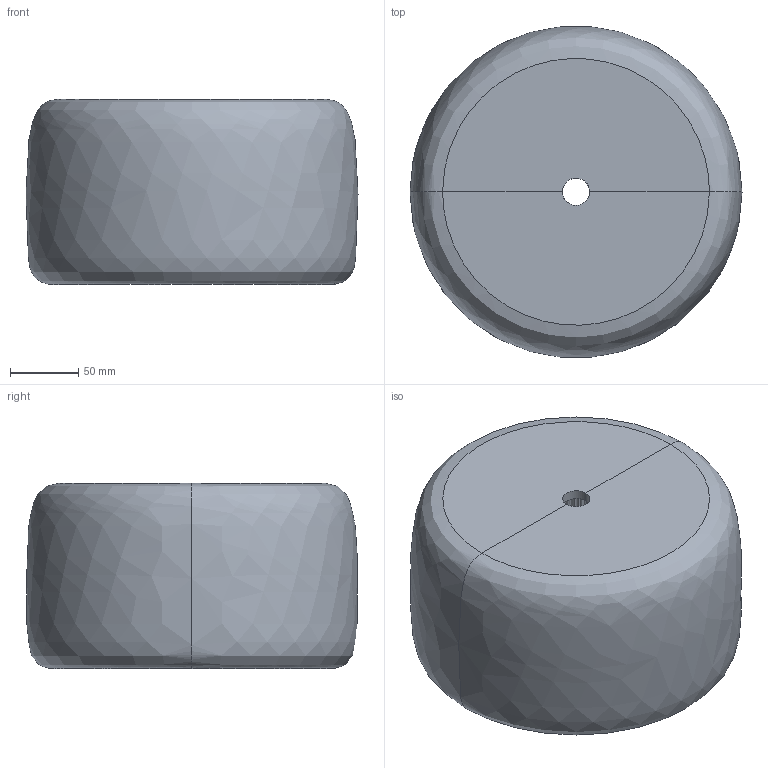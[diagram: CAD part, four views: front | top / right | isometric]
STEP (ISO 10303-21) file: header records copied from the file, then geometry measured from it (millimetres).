
FILE_DESCRIPTION (( 'STEP AP214' ), '1' );
FILE_NAME ('Ises_shade.STEP', '2026-05-29T13:04:42', ( '' ), ( '' ), 'SwSTEP 2.0', 'SolidWorks 2023', '' );
FILE_SCHEMA (( 'AUTOMOTIVE_DESIGN' ));
Length unit declared in the file: millimetre
Products named in the file (3): Manises Sobremesa63.igs; Ises_shade; Manises Sobremesa.igs
Assembly tree (2 placements, depth 3):
  Ises_shade
    Manises Sobremesa.igs
      Manises Sobremesa63.igs
Bounding box: 243.32 x 242.31 x 135.7 mm (x, y, z)
Volume: 1227966.9 mm3; surface area: 277153.2 mm2
Topology: 1 solids, 1 shells, 8 faces, 16 edges, 8 vertices
Faces by surface type: bspline 8
Entity records: 923 total; most frequent: CARTESIAN_POINT 754, ORIENTED_EDGE 32, EDGE_CURVE 16, DIRECTION 12, VERTEX_POINT 8, FACE_OUTER_BOUND 8, ADVANCED_FACE 8, EDGE_LOOP 8
